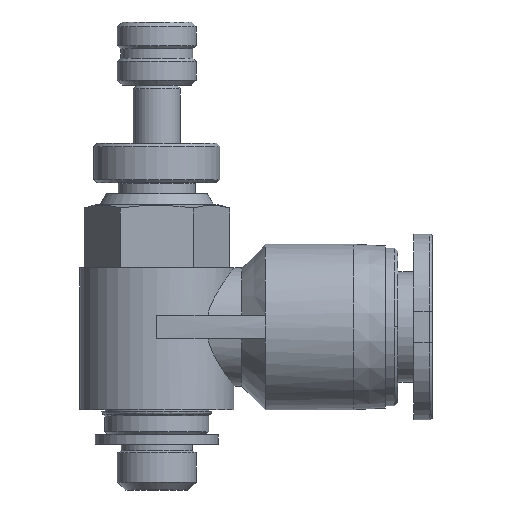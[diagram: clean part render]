
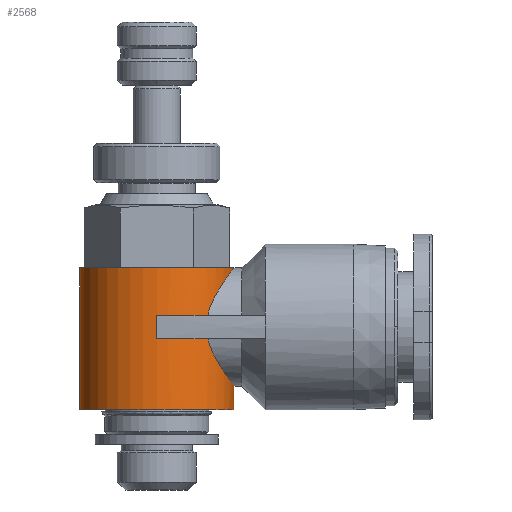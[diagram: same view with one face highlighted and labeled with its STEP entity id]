
A CAD part, front view. The second image highlights one B-rep face of the part: STEP entity #2568.
In plain terms, the highlighted cylindrical face has radius 4.9 mm (diameter 9.8 mm), a partial arc.
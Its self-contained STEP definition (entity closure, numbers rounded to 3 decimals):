
#26 = VERTEX_POINT ( 'NONE', #2674 ) ;
#28 = CARTESIAN_POINT ( 'NONE',  ( 3.242, -3.674, 11.1 ) ) ;
#37 = CARTESIAN_POINT ( 'NONE',  ( 3.292, -3.63, 11.319 ) ) ;
#66 = AXIS2_PLACEMENT_3D ( 'NONE', #1144, #3082, #1423 ) ;
#68 = VERTEX_POINT ( 'NONE', #2744 ) ;
#119 = VERTEX_POINT ( 'NONE', #1271 ) ;
#139 = LINE ( 'NONE', #1349, #876 ) ;
#153 = CARTESIAN_POINT ( 'NONE',  ( 3.242, -3.674, 9.6 ) ) ;
#164 = CARTESIAN_POINT ( 'NONE',  ( 4.079, -2.72, 7.76 ) ) ;
#238 = CARTESIAN_POINT ( 'NONE',  ( 3.242, -3.674, 11.1 ) ) ;
#244 = CARTESIAN_POINT ( 'NONE',  ( 0., -4.9, 9.6 ) ) ;
#247 = CARTESIAN_POINT ( 'NONE',  ( 0., 0., 5.1 ) ) ;
#258 = CARTESIAN_POINT ( 'NONE',  ( 3.362, -3.567, 11.527 ) ) ;
#267 = CARTESIAN_POINT ( 'NONE',  ( 0., 0., 11.1 ) ) ;
#274 = CARTESIAN_POINT ( 'NONE',  ( 3.52, -3.41, 11.924 ) ) ;
#277 = CARTESIAN_POINT ( 'NONE',  ( 4.9, 0., 5.1 ) ) ;
#290 = CARTESIAN_POINT ( 'NONE',  ( 3.609, -3.318, 12.11 ) ) ;
#304 = CARTESIAN_POINT ( 'NONE',  ( 3.885, -3., 12.638 ) ) ;
#323 = CARTESIAN_POINT ( 'NONE',  ( 4.085, -2.73, 12.954 ) ) ;
#342 = CARTESIAN_POINT ( 'NONE',  ( 4.354, -2.254, 13.354 ) ) ;
#375 = EDGE_CURVE ( 'NONE', #377, #26, #1440, .T. ) ;
#377 = VERTEX_POINT ( 'NONE', #783 ) ;
#383 = ORIENTED_EDGE ( 'NONE', *, *, #2898, .T. ) ;
#441 = CARTESIAN_POINT ( 'NONE',  ( 4.445, -2.094, 7.211 ) ) ;
#461 = CARTESIAN_POINT ( 'NONE',  ( -4.9, 0., 14.1 ) ) ;
#538 = CARTESIAN_POINT ( 'NONE',  ( 4.44, -2.082, 13.476 ) ) ;
#552 = CARTESIAN_POINT ( 'NONE',  ( 4.595, -1.714, 13.692 ) ) ;
#558 = DIRECTION ( 'NONE',  ( 1., 0., 0. ) ) ;
#564 = CARTESIAN_POINT ( 'NONE',  ( 4.663, -1.519, 13.785 ) ) ;
#604 = AXIS2_PLACEMENT_3D ( 'NONE', #247, #1682, #3223 ) ;
#722 = CARTESIAN_POINT ( 'NONE',  ( 4.777, -1.114, 6.762 ) ) ;
#754 = AXIS2_PLACEMENT_3D ( 'NONE', #267, #2188, #558 ) ;
#783 = CARTESIAN_POINT ( 'NONE',  ( -4.9, 0., 5.1 ) ) ;
#821 = CARTESIAN_POINT ( 'NONE',  ( 4.778, -1.109, 13.939 ) ) ;
#858 = CARTESIAN_POINT ( 'NONE',  ( 4.823, -0.892, 13.999 ) ) ;
#870 = CARTESIAN_POINT ( 'NONE',  ( 4.884, -0.453, 14.079 ) ) ;
#876 = VECTOR ( 'NONE', #1866, 1000. ) ;
#884 = VERTEX_POINT ( 'NONE', #244 ) ;
#892 = EDGE_CURVE ( 'NONE', #377, #2118, #139, .T. ) ;
#919 = B_SPLINE_CURVE_WITH_KNOTS ( 'NONE', 3,
 ( #1137, #1636, #870, #858, #821, #564, #552, #538, #342, #323, #304, #290, #274, #258, #37, #28 ),
 .UNSPECIFIED., .F., .F.,
 ( 4, 2, 2, 2, 2, 2, 2, 4 ),
 ( 0., 0.001, 0.001, 0.002, 0.003, 0.004, 0.005, 0.005 ),
 .UNSPECIFIED. ) ;
#940 = AXIS2_PLACEMENT_3D ( 'NONE', #2161, #2891, #1535 ) ;
#974 = CARTESIAN_POINT ( 'NONE',  ( 3.293, -3.629, 9.381 ) ) ;
#985 = EDGE_CURVE ( 'NONE', #3418, #2118, #1810, .T. ) ;
#994 = CARTESIAN_POINT ( 'NONE',  ( 4.884, -0.458, 6.621 ) ) ;
#1083 = CARTESIAN_POINT ( 'NONE',  ( 4.9, 0., 6.6 ) ) ;
#1137 = CARTESIAN_POINT ( 'NONE',  ( 4.9, 0., 14.1 ) ) ;
#1144 = CARTESIAN_POINT ( 'NONE',  ( 0., 0., 9.6 ) ) ;
#1216 = LINE ( 'NONE', #2725, #1385 ) ;
#1243 = EDGE_CURVE ( 'NONE', #3418, #1833, #919, .T. ) ;
#1260 = CARTESIAN_POINT ( 'NONE',  ( 3.361, -3.567, 9.175 ) ) ;
#1261 = VECTOR ( 'NONE', #3000, 1000. ) ;
#1271 = CARTESIAN_POINT ( 'NONE',  ( 3.242, -3.674, 9.6 ) ) ;
#1275 = CARTESIAN_POINT ( 'NONE',  ( 4.9, 0., 6.6 ) ) ;
#1349 = CARTESIAN_POINT ( 'NONE',  ( -4.9, 0., 5.1 ) ) ;
#1385 = VECTOR ( 'NONE', #2444, 1000. ) ;
#1423 = DIRECTION ( 'NONE',  ( 1., 0., 0. ) ) ;
#1440 = CIRCLE ( 'NONE', #604, 4.9 ) ;
#1517 = CIRCLE ( 'NONE', #754, 4.9 ) ;
#1535 = DIRECTION ( 'NONE',  ( 1., 0., 0. ) ) ;
#1541 = CARTESIAN_POINT ( 'NONE',  ( 3.606, -3.32, 8.595 ) ) ;
#1636 = CARTESIAN_POINT ( 'NONE',  ( 4.9, -0.229, 14.1 ) ) ;
#1671 = DIRECTION ( 'NONE',  ( 1., 0., 0. ) ) ;
#1682 = DIRECTION ( 'NONE',  ( 0., 0., 1. ) ) ;
#1689 = CIRCLE ( 'NONE', #66, 4.9 ) ;
#1692 = FACE_OUTER_BOUND ( 'NONE', #2826, .T. ) ;
#1807 = CARTESIAN_POINT ( 'NONE',  ( 3.889, -2.986, 8.072 ) ) ;
#1810 = CIRCLE ( 'NONE', #940, 4.9 ) ;
#1819 = ORIENTED_EDGE ( 'NONE', *, *, #375, .T. ) ;
#1833 = VERTEX_POINT ( 'NONE', #238 ) ;
#1866 = DIRECTION ( 'NONE',  ( 0., 0., 1. ) ) ;
#1920 = ORIENTED_EDGE ( 'NONE', *, *, #892, .F. ) ;
#2044 = EDGE_CURVE ( 'NONE', #26, #2874, #3560, .T. ) ;
#2078 = CARTESIAN_POINT ( 'NONE',  ( 4.174, -2.573, 7.614 ) ) ;
#2118 = VERTEX_POINT ( 'NONE', #461 ) ;
#2161 = CARTESIAN_POINT ( 'NONE',  ( 0., 0., 14.1 ) ) ;
#2188 = DIRECTION ( 'NONE',  ( 0., 0., -1. ) ) ;
#2320 = CARTESIAN_POINT ( 'NONE',  ( 4.9, 0., 14.1 ) ) ;
#2347 = ORIENTED_EDGE ( 'NONE', *, *, #2535, .F. ) ;
#2361 = CARTESIAN_POINT ( 'NONE',  ( 4.603, -1.734, 6.996 ) ) ;
#2402 = B_SPLINE_CURVE_WITH_KNOTS ( 'NONE', 3,
 ( #153, #974, #1260, #3200, #1541, #3482, #1807, #164, #2078, #441, #2361, #722, #2633, #994, #2926, #1275 ),
 .UNSPECIFIED., .F., .F.,
 ( 4, 2, 2, 2, 2, 2, 2, 4 ),
 ( -0.005, -0.005, -0.004, -0.003, -0.003, -0.001, -0.001, 0. ),
 .UNSPECIFIED. ) ;
#2405 = AXIS2_PLACEMENT_3D ( 'NONE', #3338, #2760, #1671 ) ;
#2444 = DIRECTION ( 'NONE',  ( 0., 0., 1. ) ) ;
#2528 = ORIENTED_EDGE ( 'NONE', *, *, #1243, .F. ) ;
#2535 = EDGE_CURVE ( 'NONE', #1833, #68, #1517, .T. ) ;
#2568 = ADVANCED_FACE ( '52', ( #1692 ), #3557, .T. ) ;
#2605 = ORIENTED_EDGE ( 'NONE', *, *, #3536, .F. ) ;
#2633 = CARTESIAN_POINT ( 'NONE',  ( 4.822, -0.899, 6.702 ) ) ;
#2674 = CARTESIAN_POINT ( 'NONE',  ( 4.9, 0., 5.1 ) ) ;
#2725 = CARTESIAN_POINT ( 'NONE',  ( 0., -4.9, 5.1 ) ) ;
#2744 = CARTESIAN_POINT ( 'NONE',  ( 0., -4.9, 11.1 ) ) ;
#2760 = DIRECTION ( 'NONE',  ( 0., 0., 1. ) ) ;
#2826 = EDGE_LOOP ( 'NONE', ( #1920, #1819, #3512, #2605, #2955, #383, #2347, #2528, #3327 ) ) ;
#2874 = VERTEX_POINT ( 'NONE', #1083 ) ;
#2891 = DIRECTION ( 'NONE',  ( 0., 0., -1. ) ) ;
#2898 = EDGE_CURVE ( 'NONE', #884, #68, #1216, .T. ) ;
#2926 = CARTESIAN_POINT ( 'NONE',  ( 4.9, -0.229, 6.6 ) ) ;
#2955 = ORIENTED_EDGE ( 'NONE', *, *, #3026, .F. ) ;
#3000 = DIRECTION ( 'NONE',  ( 0., 0., 1. ) ) ;
#3026 = EDGE_CURVE ( 'NONE', #884, #119, #1689, .T. ) ;
#3082 = DIRECTION ( 'NONE',  ( 0., 0., 1. ) ) ;
#3200 = CARTESIAN_POINT ( 'NONE',  ( 3.518, -3.413, 8.782 ) ) ;
#3223 = DIRECTION ( 'NONE',  ( 1., 0., 0. ) ) ;
#3327 = ORIENTED_EDGE ( 'NONE', *, *, #985, .T. ) ;
#3338 = CARTESIAN_POINT ( 'NONE',  ( 0., 0., 5.1 ) ) ;
#3418 = VERTEX_POINT ( 'NONE', #2320 ) ;
#3482 = CARTESIAN_POINT ( 'NONE',  ( 3.793, -3.106, 8.238 ) ) ;
#3512 = ORIENTED_EDGE ( 'NONE', *, *, #2044, .T. ) ;
#3536 = EDGE_CURVE ( 'NONE', #119, #2874, #2402, .T. ) ;
#3557 = CYLINDRICAL_SURFACE ( 'NONE', #2405, 4.9 ) ;
#3560 = LINE ( 'NONE', #277, #1261 ) ;
